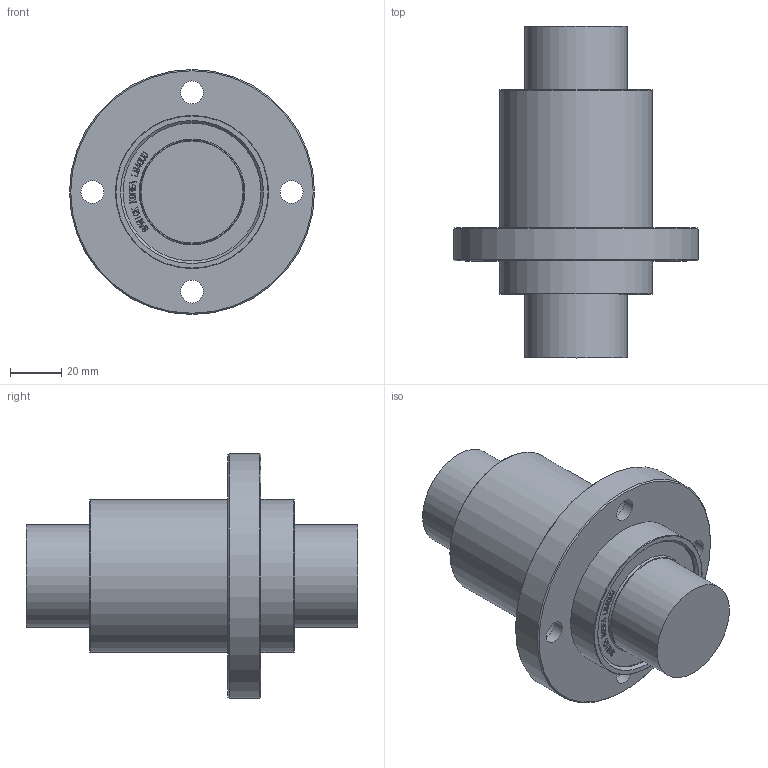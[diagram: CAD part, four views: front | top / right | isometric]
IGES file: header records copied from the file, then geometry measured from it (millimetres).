
Global section: file name: No Iges File Name specified; native system: Autodesk Inventor 2012; preprocessor: AutoDesk Inventor Iges Exporter R2012; author: user2; date: 20130206.161616; units: millimetre
Bounding box: 96 x 130 x 96 mm (x, y, z)
Volume: 336732.6 mm3; surface area: 39270.3 mm2
Topology: 1 solids, 1 shells, 837 faces, 2327 edges, 1550 vertices
Faces by surface type: bspline 572, plane 242, revolution 12, cylinder 5, cone 4, torus 2
Full cylindrical faces by diameter (mm): 40 x2, 60 x2, 96 x1
